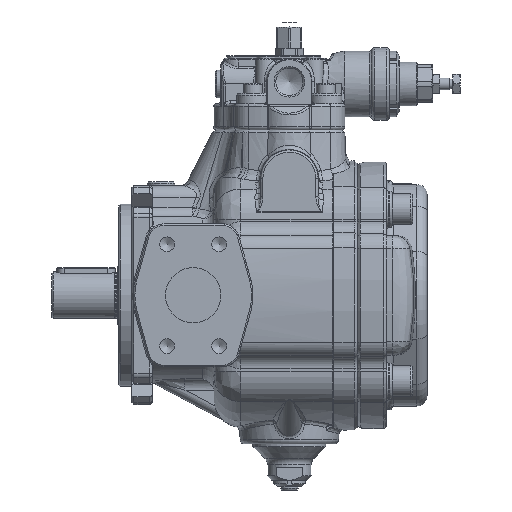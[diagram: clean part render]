
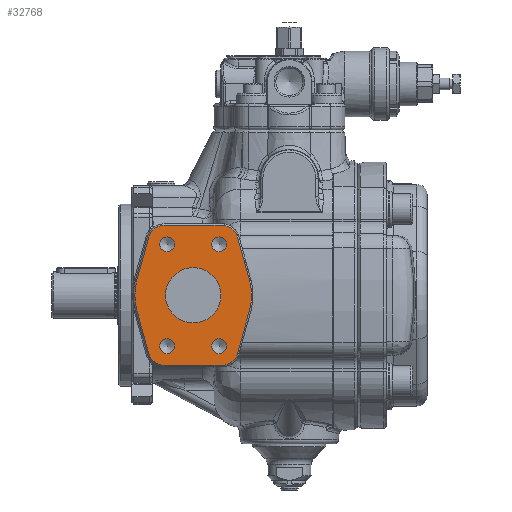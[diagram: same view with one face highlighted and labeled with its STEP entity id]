
A CAD part, left-side view. The second image highlights one B-rep face of the part: STEP entity #32768.
In plain terms, the highlighted planar face has unit normal (-1, 0, 0).
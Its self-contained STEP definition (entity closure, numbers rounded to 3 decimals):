
#589=FACE_BOUND('',#8317,.T.);
#590=FACE_BOUND('',#8318,.T.);
#591=FACE_BOUND('',#8319,.T.);
#592=FACE_BOUND('',#8320,.T.);
#593=FACE_BOUND('',#8321,.T.);
#2405=LINE('',#56677,#4017);
#2410=LINE('',#56691,#4022);
#2414=LINE('',#56705,#4026);
#2418=LINE('',#56717,#4030);
#2422=LINE('',#56729,#4034);
#2426=LINE('',#56741,#4038);
#4017=VECTOR('',#41933,10.);
#4022=VECTOR('',#41946,10.);
#4026=VECTOR('',#41960,10.);
#4030=VECTOR('',#41972,10.);
#4034=VECTOR('',#41984,10.);
#4038=VECTOR('',#41996,10.);
#5135=PLANE('',#35728);
#6316=FACE_OUTER_BOUND('',#8316,.T.);
#8316=EDGE_LOOP('',(#24833,#24834,#24835,#24836,#24837,#24838,#24839,#24840,
#24841,#24842,#24843,#24844));
#8317=EDGE_LOOP('',(#24845));
#8318=EDGE_LOOP('',(#24846,#24847));
#8319=EDGE_LOOP('',(#24848,#24849));
#8320=EDGE_LOOP('',(#24850,#24851));
#8321=EDGE_LOOP('',(#24852,#24853));
#11346=CIRCLE('',#35693,11.);
#11348=CIRCLE('',#35697,40.);
#11351=CIRCLE('',#35702,11.);
#11353=CIRCLE('',#35706,11.);
#11355=CIRCLE('',#35710,40.);
#11357=CIRCLE('',#35714,11.);
#11362=CIRCLE('',#35729,19.);
#11363=CIRCLE('',#35730,5.053);
#11364=CIRCLE('',#35731,5.053);
#11365=CIRCLE('',#35732,5.053);
#11366=CIRCLE('',#35733,5.053);
#11367=CIRCLE('',#35734,5.053);
#11368=CIRCLE('',#35735,5.053);
#11369=CIRCLE('',#35736,5.053);
#11370=CIRCLE('',#35737,5.053);
#13793=VERTEX_POINT('',#56674);
#13794=VERTEX_POINT('',#56676);
#13797=VERTEX_POINT('',#56683);
#13799=VERTEX_POINT('',#56689);
#13801=VERTEX_POINT('',#56695);
#13804=VERTEX_POINT('',#56703);
#13806=VERTEX_POINT('',#56709);
#13808=VERTEX_POINT('',#56715);
#13810=VERTEX_POINT('',#56721);
#13812=VERTEX_POINT('',#56727);
#13814=VERTEX_POINT('',#56733);
#13816=VERTEX_POINT('',#56739);
#13856=VERTEX_POINT('',#56947);
#13857=VERTEX_POINT('',#56949);
#13858=VERTEX_POINT('',#56950);
#13859=VERTEX_POINT('',#56953);
#13860=VERTEX_POINT('',#56954);
#13861=VERTEX_POINT('',#56957);
#13862=VERTEX_POINT('',#56958);
#13863=VERTEX_POINT('',#56961);
#13864=VERTEX_POINT('',#56962);
#17629=EDGE_CURVE('',#13793,#13794,#2405,.T.);
#17633=EDGE_CURVE('',#13797,#13793,#11346,.T.);
#17636=EDGE_CURVE('',#13799,#13797,#2410,.T.);
#17639=EDGE_CURVE('',#13801,#13799,#11348,.T.);
#17643=EDGE_CURVE('',#13804,#13801,#2414,.T.);
#17646=EDGE_CURVE('',#13806,#13804,#11351,.T.);
#17649=EDGE_CURVE('',#13808,#13806,#2418,.T.);
#17652=EDGE_CURVE('',#13810,#13808,#11353,.T.);
#17655=EDGE_CURVE('',#13812,#13810,#2422,.T.);
#17658=EDGE_CURVE('',#13814,#13812,#11355,.T.);
#17661=EDGE_CURVE('',#13816,#13814,#2426,.T.);
#17663=EDGE_CURVE('',#13794,#13816,#11357,.T.);
#17711=EDGE_CURVE('',#13856,#13856,#11362,.T.);
#17712=EDGE_CURVE('',#13857,#13858,#11363,.T.);
#17713=EDGE_CURVE('',#13858,#13857,#11364,.T.);
#17714=EDGE_CURVE('',#13859,#13860,#11365,.T.);
#17715=EDGE_CURVE('',#13860,#13859,#11366,.T.);
#17716=EDGE_CURVE('',#13861,#13862,#11367,.T.);
#17717=EDGE_CURVE('',#13862,#13861,#11368,.T.);
#17718=EDGE_CURVE('',#13863,#13864,#11369,.T.);
#17719=EDGE_CURVE('',#13864,#13863,#11370,.T.);
#24833=ORIENTED_EDGE('',*,*,#17629,.F.);
#24834=ORIENTED_EDGE('',*,*,#17633,.F.);
#24835=ORIENTED_EDGE('',*,*,#17636,.F.);
#24836=ORIENTED_EDGE('',*,*,#17639,.F.);
#24837=ORIENTED_EDGE('',*,*,#17643,.F.);
#24838=ORIENTED_EDGE('',*,*,#17646,.F.);
#24839=ORIENTED_EDGE('',*,*,#17649,.F.);
#24840=ORIENTED_EDGE('',*,*,#17652,.F.);
#24841=ORIENTED_EDGE('',*,*,#17655,.F.);
#24842=ORIENTED_EDGE('',*,*,#17658,.F.);
#24843=ORIENTED_EDGE('',*,*,#17661,.F.);
#24844=ORIENTED_EDGE('',*,*,#17663,.F.);
#24845=ORIENTED_EDGE('',*,*,#17711,.T.);
#24846=ORIENTED_EDGE('',*,*,#17712,.T.);
#24847=ORIENTED_EDGE('',*,*,#17713,.T.);
#24848=ORIENTED_EDGE('',*,*,#17714,.T.);
#24849=ORIENTED_EDGE('',*,*,#17715,.T.);
#24850=ORIENTED_EDGE('',*,*,#17716,.T.);
#24851=ORIENTED_EDGE('',*,*,#17717,.T.);
#24852=ORIENTED_EDGE('',*,*,#17718,.T.);
#24853=ORIENTED_EDGE('',*,*,#17719,.T.);
#32768=ADVANCED_FACE('',(#6316,#589,#590,#591,#592,#593),#5135,.F.);
#35693=AXIS2_PLACEMENT_3D('',#56685,#41939,#41940);
#35697=AXIS2_PLACEMENT_3D('',#56697,#41951,#41952);
#35702=AXIS2_PLACEMENT_3D('',#56711,#41965,#41966);
#35706=AXIS2_PLACEMENT_3D('',#56723,#41977,#41978);
#35710=AXIS2_PLACEMENT_3D('',#56735,#41989,#41990);
#35714=AXIS2_PLACEMENT_3D('',#56744,#42000,#42001);
#35728=AXIS2_PLACEMENT_3D('',#56946,#42043,#42044);
#35729=AXIS2_PLACEMENT_3D('',#56948,#42045,#42046);
#35730=AXIS2_PLACEMENT_3D('',#56951,#42047,#42048);
#35731=AXIS2_PLACEMENT_3D('',#56952,#42049,#42050);
#35732=AXIS2_PLACEMENT_3D('',#56955,#42051,#42052);
#35733=AXIS2_PLACEMENT_3D('',#56956,#42053,#42054);
#35734=AXIS2_PLACEMENT_3D('',#56959,#42055,#42056);
#35735=AXIS2_PLACEMENT_3D('',#56960,#42057,#42058);
#35736=AXIS2_PLACEMENT_3D('',#56963,#42059,#42060);
#35737=AXIS2_PLACEMENT_3D('',#56964,#42061,#42062);
#41933=DIRECTION('',(0.,1.,0.));
#41939=DIRECTION('center_axis',(1.,0.,0.));
#41940=DIRECTION('ref_axis',(0.,-0.964,-0.267));
#41946=DIRECTION('',(0.,0.267,-0.964));
#41951=DIRECTION('center_axis',(1.,0.,0.));
#41952=DIRECTION('ref_axis',(0.,-0.964,0.267));
#41960=DIRECTION('',(0.,-0.267,-0.964));
#41965=DIRECTION('center_axis',(1.,0.,0.));
#41966=DIRECTION('ref_axis',(0.,0.,1.));
#41972=DIRECTION('',(0.,-1.,0.));
#41977=DIRECTION('center_axis',(1.,0.,0.));
#41978=DIRECTION('ref_axis',(0.,0.964,0.267));
#41984=DIRECTION('',(0.,-0.267,0.964));
#41989=DIRECTION('center_axis',(1.,0.,0.));
#41990=DIRECTION('ref_axis',(0.,0.964,-0.267));
#41996=DIRECTION('',(0.,0.267,0.964));
#42000=DIRECTION('center_axis',(1.,0.,0.));
#42001=DIRECTION('ref_axis',(0.,0.,-1.));
#42043=DIRECTION('center_axis',(1.,0.,0.));
#42044=DIRECTION('ref_axis',(0.,0.,-1.));
#42045=DIRECTION('center_axis',(1.,0.,0.));
#42046=DIRECTION('ref_axis',(0.,-1.,0.));
#42047=DIRECTION('center_axis',(1.,0.,0.));
#42048=DIRECTION('ref_axis',(0.,0.,1.));
#42049=DIRECTION('center_axis',(1.,0.,0.));
#42050=DIRECTION('ref_axis',(0.,0.,1.));
#42051=DIRECTION('center_axis',(1.,0.,0.));
#42052=DIRECTION('ref_axis',(0.,0.,1.));
#42053=DIRECTION('center_axis',(1.,0.,0.));
#42054=DIRECTION('ref_axis',(0.,0.,1.));
#42055=DIRECTION('center_axis',(1.,0.,0.));
#42056=DIRECTION('ref_axis',(0.,0.,1.));
#42057=DIRECTION('center_axis',(1.,0.,0.));
#42058=DIRECTION('ref_axis',(0.,0.,1.));
#42059=DIRECTION('center_axis',(1.,0.,0.));
#42060=DIRECTION('ref_axis',(0.,0.,1.));
#42061=DIRECTION('center_axis',(1.,0.,0.));
#42062=DIRECTION('ref_axis',(0.,0.,1.));
#56674=CARTESIAN_POINT('',(-98.542,9.928,-57.476));
#56676=CARTESIAN_POINT('',(-98.542,49.628,-57.476));
#56677=CARTESIAN_POINT('',(-98.542,19.853,-57.476));
#56683=CARTESIAN_POINT('',(-98.542,-0.673,-49.41));
#56685=CARTESIAN_POINT('Origin',(-98.542,9.928,-46.476));
#56689=CARTESIAN_POINT('',(-98.542,-8.772,-20.145));
#56691=CARTESIAN_POINT('',(-98.542,-8.772,-20.145));
#56695=CARTESIAN_POINT('',(-98.542,-8.772,1.194));
#56697=CARTESIAN_POINT('Origin',(-98.542,29.778,-9.476));
#56703=CARTESIAN_POINT('',(-98.542,-0.673,30.458));
#56705=CARTESIAN_POINT('',(-98.542,-4.723,15.826));
#56709=CARTESIAN_POINT('',(-98.542,9.928,38.524));
#56711=CARTESIAN_POINT('Origin',(-98.542,9.928,27.524));
#56715=CARTESIAN_POINT('',(-98.542,49.628,38.524));
#56717=CARTESIAN_POINT('',(-98.542,39.703,38.524));
#56721=CARTESIAN_POINT('',(-98.542,60.23,30.458));
#56723=CARTESIAN_POINT('Origin',(-98.542,49.628,27.524));
#56727=CARTESIAN_POINT('',(-98.542,68.329,1.194));
#56729=CARTESIAN_POINT('',(-98.542,68.329,1.194));
#56733=CARTESIAN_POINT('',(-98.542,68.329,-20.145));
#56735=CARTESIAN_POINT('Origin',(-98.542,29.778,-9.476));
#56739=CARTESIAN_POINT('',(-98.542,60.23,-49.41));
#56741=CARTESIAN_POINT('',(-98.542,64.279,-34.777));
#56744=CARTESIAN_POINT('Origin',(-98.542,49.628,-46.476));
#56946=CARTESIAN_POINT('Origin',(-98.542,29.778,-9.476));
#56947=CARTESIAN_POINT('',(-98.542,48.778,-9.476));
#56948=CARTESIAN_POINT('Origin',(-98.542,29.778,-9.476));
#56949=CARTESIAN_POINT('',(-98.542,47.628,-39.373));
#56950=CARTESIAN_POINT('',(-98.542,47.628,-49.479));
#56951=CARTESIAN_POINT('Origin',(-98.542,47.628,-44.426));
#56952=CARTESIAN_POINT('Origin',(-98.542,47.628,-44.426));
#56953=CARTESIAN_POINT('',(-98.542,11.928,30.527));
#56954=CARTESIAN_POINT('',(-98.542,11.928,20.421));
#56955=CARTESIAN_POINT('Origin',(-98.542,11.928,25.474));
#56956=CARTESIAN_POINT('Origin',(-98.542,11.928,25.474));
#56957=CARTESIAN_POINT('',(-98.542,47.628,30.527));
#56958=CARTESIAN_POINT('',(-98.542,47.628,20.421));
#56959=CARTESIAN_POINT('Origin',(-98.542,47.628,25.474));
#56960=CARTESIAN_POINT('Origin',(-98.542,47.628,25.474));
#56961=CARTESIAN_POINT('',(-98.542,11.928,-39.373));
#56962=CARTESIAN_POINT('',(-98.542,11.928,-49.479));
#56963=CARTESIAN_POINT('Origin',(-98.542,11.928,-44.426));
#56964=CARTESIAN_POINT('Origin',(-98.542,11.928,-44.426));
